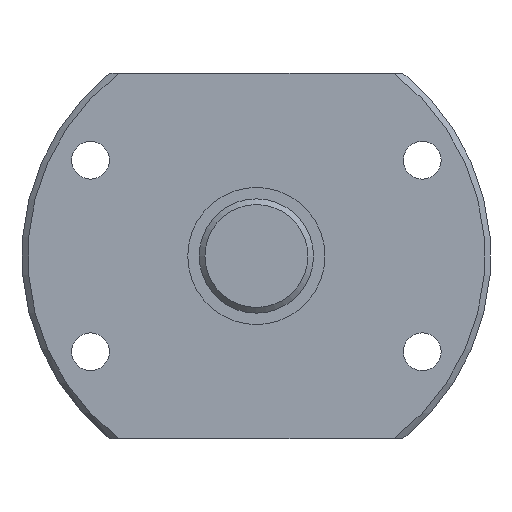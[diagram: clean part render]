
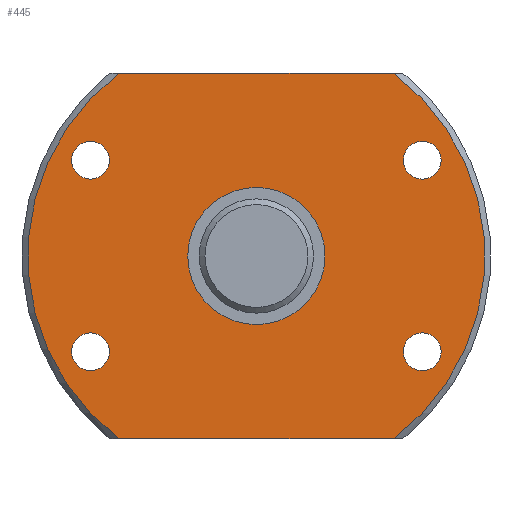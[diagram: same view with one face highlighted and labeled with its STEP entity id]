
A CAD part, left-side view. The second image highlights one B-rep face of the part: STEP entity #445.
In plain terms, the highlighted planar face has unit normal (-1, 0, 0).
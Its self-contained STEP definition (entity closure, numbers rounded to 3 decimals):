
#32=LINE('',#786,#40);
#33=LINE('',#790,#41);
#40=VECTOR('',#613,1000.);
#41=VECTOR('',#616,1000.);
#66=PLANE('',#515);
#102=ORIENTED_EDGE('',*,*,#196,.T.);
#103=ORIENTED_EDGE('',*,*,#197,.F.);
#104=ORIENTED_EDGE('',*,*,#198,.F.);
#105=ORIENTED_EDGE('',*,*,#199,.F.);
#106=ORIENTED_EDGE('',*,*,#186,.F.);
#107=ORIENTED_EDGE('',*,*,#200,.T.);
#108=ORIENTED_EDGE('',*,*,#201,.T.);
#109=ORIENTED_EDGE('',*,*,#202,.T.);
#110=ORIENTED_EDGE('',*,*,#203,.T.);
#186=EDGE_CURVE('',#234,#235,#273,.T.);
#196=EDGE_CURVE('',#244,#244,#278,.T.);
#197=EDGE_CURVE('',#245,#234,#32,.T.);
#198=EDGE_CURVE('',#246,#245,#279,.T.);
#199=EDGE_CURVE('',#235,#246,#33,.T.);
#200=EDGE_CURVE('',#247,#247,#280,.T.);
#201=EDGE_CURVE('',#248,#248,#281,.T.);
#202=EDGE_CURVE('',#249,#249,#282,.T.);
#203=EDGE_CURVE('',#250,#250,#283,.T.);
#234=VERTEX_POINT('',#738);
#235=VERTEX_POINT('',#740);
#244=VERTEX_POINT('',#785);
#245=VERTEX_POINT('',#787);
#246=VERTEX_POINT('',#789);
#247=VERTEX_POINT('',#792);
#248=VERTEX_POINT('',#794);
#249=VERTEX_POINT('',#796);
#250=VERTEX_POINT('',#798);
#273=CIRCLE('',#508,39.975);
#278=CIRCLE('',#516,12.);
#279=CIRCLE('',#517,39.975);
#280=CIRCLE('',#518,3.3);
#281=CIRCLE('',#519,3.3);
#282=CIRCLE('',#520,3.3);
#283=CIRCLE('',#521,3.3);
#314=EDGE_LOOP('',(#102));
#315=EDGE_LOOP('',(#103,#104,#105,#106));
#316=EDGE_LOOP('',(#107));
#317=EDGE_LOOP('',(#108));
#318=EDGE_LOOP('',(#109));
#319=EDGE_LOOP('',(#110));
#376=FACE_BOUND('',#314,.T.);
#377=FACE_BOUND('',#315,.T.);
#378=FACE_BOUND('',#316,.T.);
#379=FACE_BOUND('',#317,.T.);
#380=FACE_BOUND('',#318,.T.);
#381=FACE_BOUND('',#319,.T.);
#445=ADVANCED_FACE('',(#376,#377,#378,#379,#380,#381),#66,.T.);
#508=AXIS2_PLACEMENT_3D('',#739,#593,#594);
#515=AXIS2_PLACEMENT_3D('',#783,#609,#610);
#516=AXIS2_PLACEMENT_3D('',#784,#611,#612);
#517=AXIS2_PLACEMENT_3D('',#788,#614,#615);
#518=AXIS2_PLACEMENT_3D('',#791,#617,#618);
#519=AXIS2_PLACEMENT_3D('',#793,#619,#620);
#520=AXIS2_PLACEMENT_3D('',#795,#621,#622);
#521=AXIS2_PLACEMENT_3D('',#797,#623,#624);
#593=DIRECTION('',(1.,0.,0.));
#594=DIRECTION('',(0.,0.,-1.));
#609=DIRECTION('',(-1.,0.,0.));
#610=DIRECTION('',(0.,0.,1.));
#611=DIRECTION('',(1.,0.,0.));
#612=DIRECTION('',(0.,0.,-1.));
#613=DIRECTION('',(0.,-1.,0.));
#614=DIRECTION('',(1.,0.,0.));
#615=DIRECTION('',(0.,0.,-1.));
#616=DIRECTION('',(0.,1.,0.));
#617=DIRECTION('',(1.,0.,0.));
#618=DIRECTION('',(0.,0.,-1.));
#619=DIRECTION('',(1.,0.,0.));
#620=DIRECTION('',(0.,0.,-1.));
#621=DIRECTION('',(1.,0.,0.));
#622=DIRECTION('',(0.,0.,-1.));
#623=DIRECTION('',(1.,0.,0.));
#624=DIRECTION('',(0.,0.,-1.));
#738=CARTESIAN_POINT('',(0.,-23.958,32.));
#739=CARTESIAN_POINT('',(0.,0.,0.));
#740=CARTESIAN_POINT('',(0.,-23.958,-32.));
#783=CARTESIAN_POINT('',(0.,39.975,0.));
#784=CARTESIAN_POINT('',(0.,0.,0.));
#785=CARTESIAN_POINT('',(0.,0.,-12.));
#786=CARTESIAN_POINT('',(0.,41.1,32.));
#787=CARTESIAN_POINT('',(0.,23.958,32.));
#788=CARTESIAN_POINT('',(0.,0.,0.));
#789=CARTESIAN_POINT('',(0.,23.958,-32.));
#790=CARTESIAN_POINT('',(0.,-41.1,-32.));
#791=CARTESIAN_POINT('',(0.,-29.012,16.75));
#792=CARTESIAN_POINT('',(0.,-29.012,13.45));
#793=CARTESIAN_POINT('',(0.,-29.012,-16.75));
#794=CARTESIAN_POINT('',(0.,-29.012,-20.05));
#795=CARTESIAN_POINT('',(0.,29.012,-16.75));
#796=CARTESIAN_POINT('',(0.,29.012,-20.05));
#797=CARTESIAN_POINT('',(0.,29.012,16.75));
#798=CARTESIAN_POINT('',(0.,29.012,13.45));
